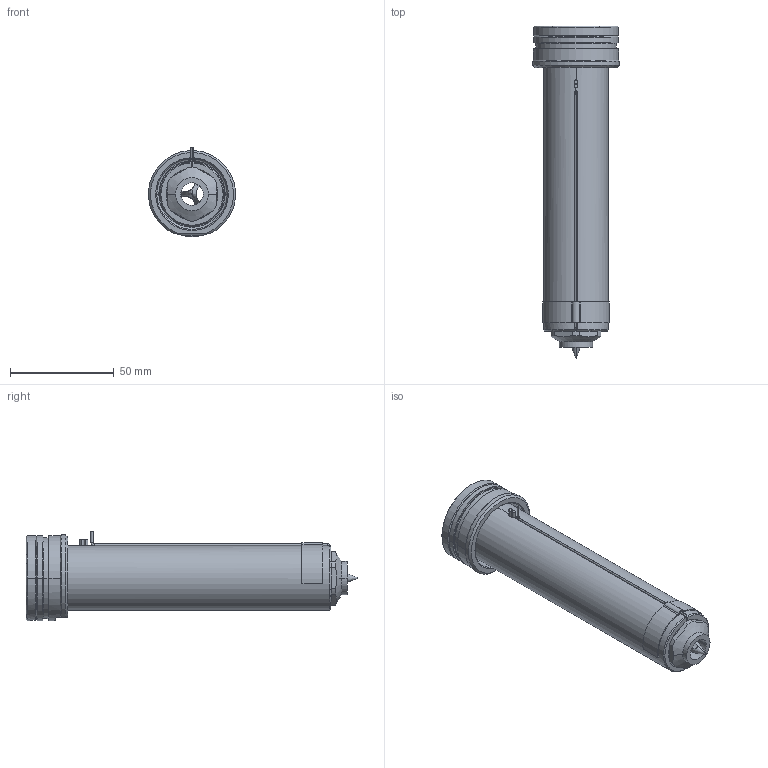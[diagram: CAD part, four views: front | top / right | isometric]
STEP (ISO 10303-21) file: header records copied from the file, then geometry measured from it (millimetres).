
FILE_DESCRIPTION((''),'2;1');
FILE_NAME('EO12_PG-BL_STD_140_SW','2024-02-19T11:12:32',('sundharh'),(''),'CREO PARAMETRIC BY PTC INC, 2023154','CREO PARAMETRIC BY PTC INC, 2023154','');
FILE_SCHEMA(('CONFIG_CONTROL_DESIGN'));
Length unit declared in the file: millimetre
Products named in the file (1): EO12_PG-BL_STD_140_SW
Bounding box: 41.85 x 160 x 43 mm (x, y, z)
Volume: 106299.3 mm3; surface area: 29439.6 mm2
Topology: 2 solids, 3 shells, 212 faces, 561 edges, 346 vertices
Faces by surface type: cylinder 80, plane 59, cone 41, torus 27, bspline 3, sphere 2
Entity records: 7671 total; most frequent: CARTESIAN_POINT 2281, DIRECTION 1193, ORIENTED_EDGE 1114, EDGE_CURVE 557, AXIS2_PLACEMENT_3D 502, VERTEX_POINT 346, CIRCLE 293, EDGE_LOOP 229
